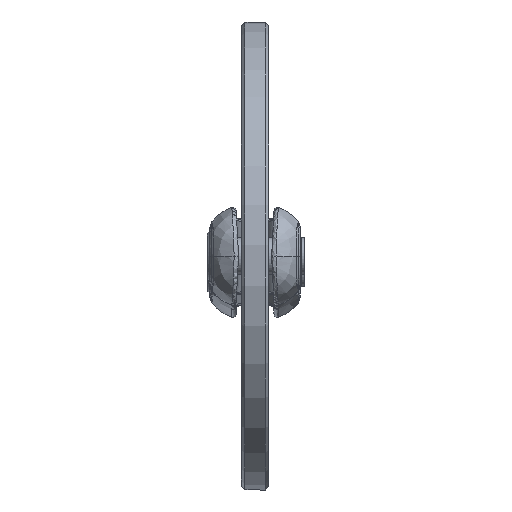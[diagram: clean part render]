
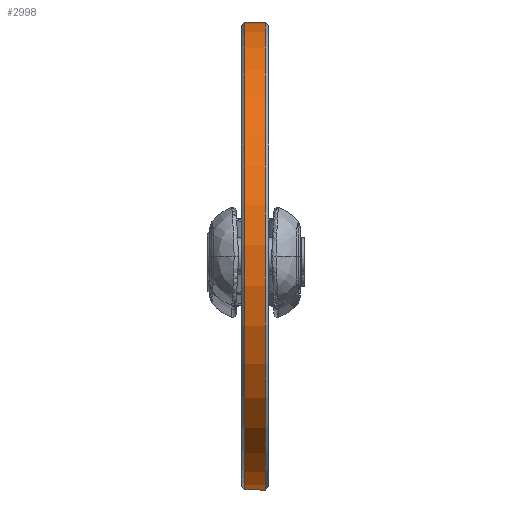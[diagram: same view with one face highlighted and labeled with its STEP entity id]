
A CAD part, top view. The second image highlights one B-rep face of the part: STEP entity #2998.
In plain terms, the highlighted cylindrical face has radius 127.5 mm (diameter 255 mm), a full revolution.
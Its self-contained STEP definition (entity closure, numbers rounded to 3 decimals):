
#584=CYLINDRICAL_SURFACE($,#3328,127.5);
#697=FACE_BOUND($,#1169,.T.);
#891=FACE_OUTER_BOUND($,#1168,.T.);
#1168=EDGE_LOOP($,(#2720));
#1169=EDGE_LOOP($,(#2721));
#1355=CIRCLE($,#3327,127.5);
#1356=CIRCLE($,#3329,127.5);
#1613=VERTEX_POINT($,#13320);
#1614=VERTEX_POINT($,#13323);
#1987=EDGE_CURVE($,#1613,#1613,#1355,.T.);
#1988=EDGE_CURVE($,#1614,#1614,#1356,.T.);
#2720=ORIENTED_EDGE($,*,*,#1988,.F.);
#2721=ORIENTED_EDGE($,*,*,#1987,.F.);
#2998=ADVANCED_FACE($,(#891,#697),#584,.T.);
#3327=AXIS2_PLACEMENT_3D($,#13321,#4036,#4037);
#3328=AXIS2_PLACEMENT_3D($,#13322,#4038,#4039);
#3329=AXIS2_PLACEMENT_3D($,#13324,#4040,#4041);
#4036=DIRECTION('center_axis',(0.,0.,-1.));
#4037=DIRECTION('ref_axis',(-1.,0.,0.));
#4038=DIRECTION('center_axis',(0.,0.,1.));
#4039=DIRECTION('ref_axis',(-1.,0.,0.));
#4040=DIRECTION('center_axis',(0.,0.,1.));
#4041=DIRECTION('ref_axis',(-1.,0.,0.));
#13320=CARTESIAN_POINT('',(127.5,0.,-5.5));
#13321=CARTESIAN_POINT('Origin',(0.,0.,-5.5));
#13322=CARTESIAN_POINT('Origin',(0.,0.,0.));
#13323=CARTESIAN_POINT('',(127.5,0.,5.5));
#13324=CARTESIAN_POINT('Origin',(0.,0.,5.5));
